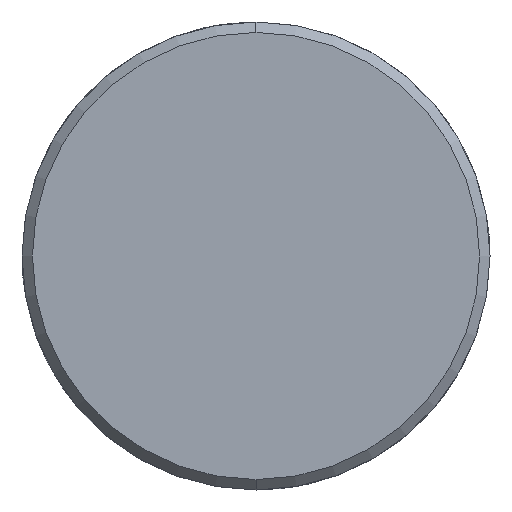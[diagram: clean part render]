
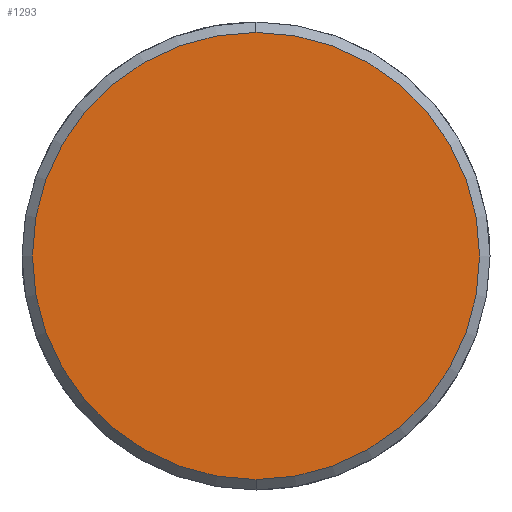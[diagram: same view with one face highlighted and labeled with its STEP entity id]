
A CAD part, left-side view. The second image highlights one B-rep face of the part: STEP entity #1293.
In plain terms, the highlighted planar face has unit normal (-1, 0, 0).
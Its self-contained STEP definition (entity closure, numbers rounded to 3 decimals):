
#1225=CARTESIAN_POINT('Vertex',(-7.,0.,-21.5)) ;
#1228=CARTESIAN_POINT('Axis2P3D Location',(-7.,0.,0.)) ;
#1232=CARTESIAN_POINT('Vertex',(-7.,21.5,0.)) ;
#1235=CARTESIAN_POINT('Axis2P3D Location',(-7.,0.,0.)) ;
#1239=CARTESIAN_POINT('Vertex',(-7.,0.,21.5)) ;
#1261=CARTESIAN_POINT('Axis2P3D Location',(-7.,0.,0.)) ;
#1265=CARTESIAN_POINT('Vertex',(-7.,-21.5,0.)) ;
#1268=CARTESIAN_POINT('Axis2P3D Location',(-7.,0.,0.)) ;
#1282=CARTESIAN_POINT('Axis2P3D Location',(-7.,0.,0.)) ;
#1229=DIRECTION('Axis2P3D Direction',(1.,0.,-0.)) ;
#1236=DIRECTION('Axis2P3D Direction',(1.,0.,-0.)) ;
#1262=DIRECTION('Axis2P3D Direction',(1.,0.,-0.)) ;
#1269=DIRECTION('Axis2P3D Direction',(1.,0.,-0.)) ;
#1283=DIRECTION('Axis2P3D Direction',(1.,0.,-0.)) ;
#1284=DIRECTION('Axis2P3D XDirection',(-0.,0.,-1.)) ;
#1230=AXIS2_PLACEMENT_3D('Circle Axis2P3D',#1228,#1229,$) ;
#1237=AXIS2_PLACEMENT_3D('Circle Axis2P3D',#1235,#1236,$) ;
#1263=AXIS2_PLACEMENT_3D('Circle Axis2P3D',#1261,#1262,$) ;
#1270=AXIS2_PLACEMENT_3D('Circle Axis2P3D',#1268,#1269,$) ;
#1285=AXIS2_PLACEMENT_3D('Plane Axis2P3D',#1282,#1283,#1284) ;
#1288=ORIENTED_EDGE('',*,*,#1234,.F.) ;
#1289=ORIENTED_EDGE('',*,*,#1272,.F.) ;
#1290=ORIENTED_EDGE('',*,*,#1267,.F.) ;
#1291=ORIENTED_EDGE('',*,*,#1241,.F.) ;
#1293=ADVANCED_FACE('351-32X126X240',(#1292),#1286,.F.) ;
#1231=CIRCLE('generated circle',#1230,21.5) ;
#1238=CIRCLE('generated circle',#1237,21.5) ;
#1264=CIRCLE('generated circle',#1263,21.5) ;
#1271=CIRCLE('generated circle',#1270,21.5) ;
#1234=EDGE_CURVE('',#1226,#1233,#1231,.T.) ;
#1241=EDGE_CURVE('',#1233,#1240,#1238,.T.) ;
#1267=EDGE_CURVE('',#1240,#1266,#1264,.T.) ;
#1272=EDGE_CURVE('',#1266,#1226,#1271,.T.) ;
#1287=EDGE_LOOP('',(#1288,#1289,#1290,#1291)) ;
#1292=FACE_OUTER_BOUND('',#1287,.T.) ;
#1286=PLANE('Plane',#1285) ;
#1226=VERTEX_POINT('',#1225) ;
#1233=VERTEX_POINT('',#1232) ;
#1240=VERTEX_POINT('',#1239) ;
#1266=VERTEX_POINT('',#1265) ;
